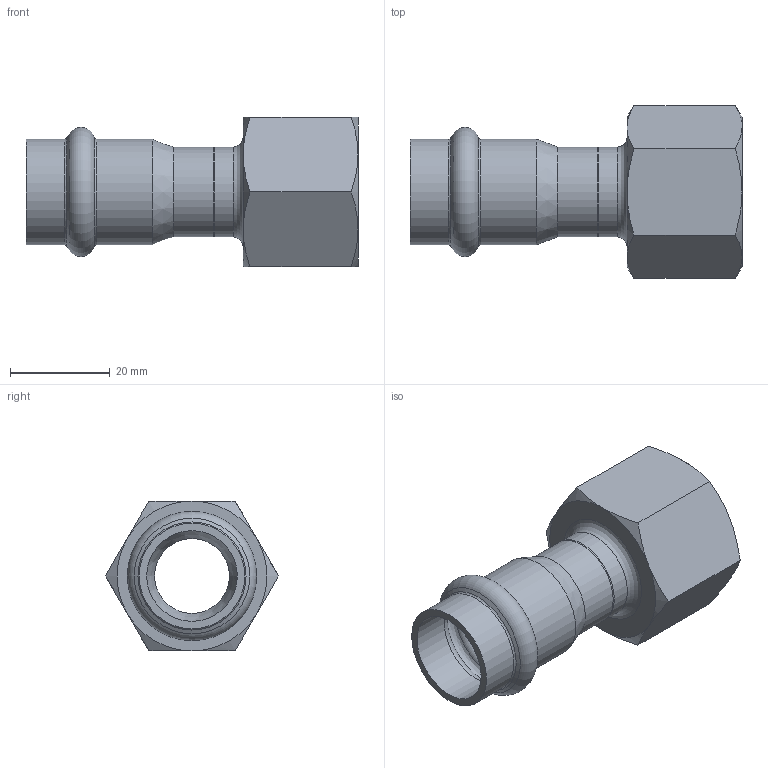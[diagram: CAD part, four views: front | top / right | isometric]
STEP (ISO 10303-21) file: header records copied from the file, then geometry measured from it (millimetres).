
FILE_DESCRIPTION((''),'2;1');
FILE_NAME('G:\Nirosan-Schmiedefeld\Technics\CAD\001 Serie 9.000\018\69270G1834H(2).stp','2018-08-28T08:53:20',('herberg'),(''),'Autodesk Inventor 2009','Autodesk Inventor 2009','');
FILE_SCHEMA(('AUTOMOTIVE_DESIGN { 1 0 10303 214 1 1 1 1 }'));
Products named in the file (3): 69270G1834H(2); 69HM18P(1); IG1834(1)
Assembly tree (2 placements, depth 2):
  69270G1834H(2)
    69HM18P(1)
    IG1834(1)
Bounding box: 66.5 x 34.64 x 30 mm (x, y, z)
Volume: 12626.8 mm3; surface area: 10739 mm2
Topology: 2 solids, 2 shells, 45 faces, 90 edges, 51 vertices
Faces by surface type: cone 17, plane 11, bspline 7, cylinder 7, torus 3
Full cylindrical faces by diameter (mm): 15 x1, 18 x2, 18.15 x2, 21.15 x2
Entity records: 1320 total; most frequent: CARTESIAN_POINT 465, DIRECTION 168, ORIENTED_EDGE 136, AXIS2_PLACEMENT_3D 81, EDGE_LOOP 72, EDGE_CURVE 68, VERTEX_POINT 50, FACE_OUTER_BOUND 45
